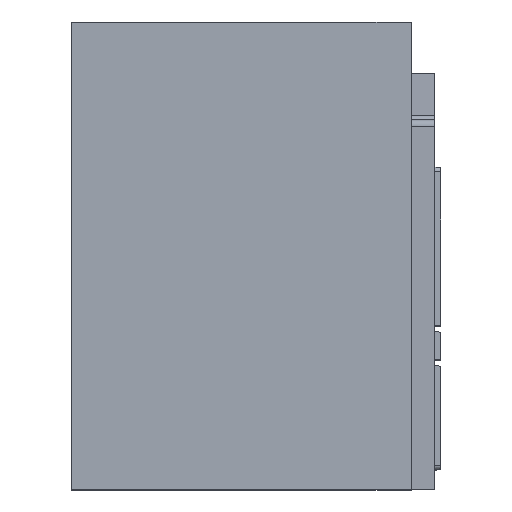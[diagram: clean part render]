
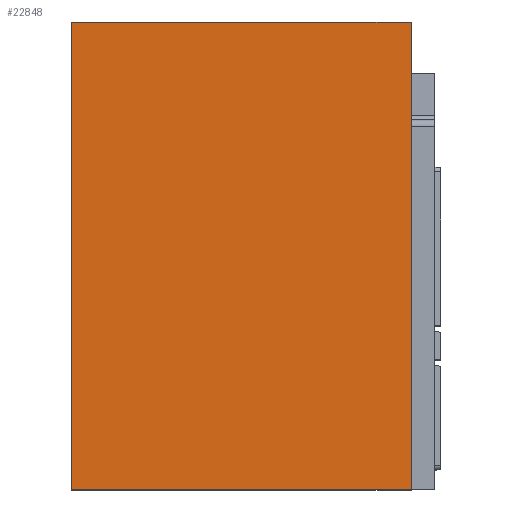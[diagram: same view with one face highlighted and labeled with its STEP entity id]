
A CAD part, top view. The second image highlights one B-rep face of the part: STEP entity #22848.
In plain terms, the highlighted planar face has unit normal (0, 0, 1).
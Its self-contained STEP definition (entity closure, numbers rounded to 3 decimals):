
#2274=FACE_OUTER_BOUND('',#3625,.T.);
#3625=EDGE_LOOP('',(#18557,#18558,#18559,#18560));
#6201=LINE('',#45470,#8227);
#6218=LINE('',#45507,#8244);
#6232=LINE('',#45555,#8258);
#6235=LINE('',#45560,#8261);
#8227=VECTOR('',#28962,80.);
#8244=VECTOR('',#28989,110.);
#8258=VECTOR('',#29039,80.);
#8261=VECTOR('',#29044,110.);
#10234=VERTEX_POINT('',#45467);
#10235=VERTEX_POINT('',#45469);
#10250=VERTEX_POINT('',#45505);
#10266=VERTEX_POINT('',#45554);
#13128=EDGE_CURVE('',#10235,#10234,#6201,.T.);
#13147=EDGE_CURVE('',#10234,#10250,#6218,.T.);
#13171=EDGE_CURVE('',#10266,#10250,#6232,.T.);
#13174=EDGE_CURVE('',#10235,#10266,#6235,.T.);
#18557=ORIENTED_EDGE('',*,*,#13128,.T.);
#18558=ORIENTED_EDGE('',*,*,#13147,.T.);
#18559=ORIENTED_EDGE('',*,*,#13171,.F.);
#18560=ORIENTED_EDGE('',*,*,#13174,.F.);
#21848=PLANE('',#24552);
#22848=ADVANCED_FACE('',(#2274),#21848,.T.);
#24552=AXIS2_PLACEMENT_3D('',#45559,#29042,#29043);
#28962=DIRECTION('',(1.,0.,0.));
#28989=DIRECTION('',(0.,1.,0.));
#29039=DIRECTION('',(1.,0.,0.));
#29042=DIRECTION('center_axis',(0.,0.,1.));
#29043=DIRECTION('ref_axis',(1.,0.,0.));
#29044=DIRECTION('',(0.,1.,0.));
#45467=CARTESIAN_POINT('',(40.,0.,40.));
#45469=CARTESIAN_POINT('',(-40.,0.,40.));
#45470=CARTESIAN_POINT('',(-40.,0.,40.));
#45505=CARTESIAN_POINT('',(40.,110.,40.));
#45507=CARTESIAN_POINT('',(40.,0.,40.));
#45554=CARTESIAN_POINT('',(-40.,110.,40.));
#45555=CARTESIAN_POINT('',(-40.,110.,40.));
#45559=CARTESIAN_POINT('Origin',(-40.,0.,40.));
#45560=CARTESIAN_POINT('',(-40.,0.,40.));
